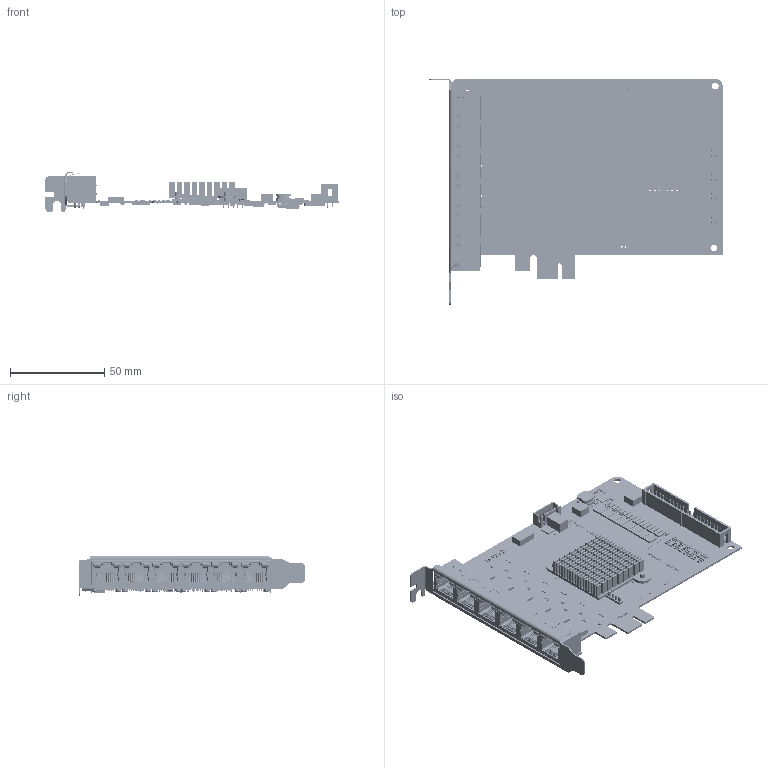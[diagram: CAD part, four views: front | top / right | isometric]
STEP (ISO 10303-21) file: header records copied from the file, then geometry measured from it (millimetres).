
FILE_DESCRIPTION((''),'2;1');
FILE_NAME('000000-XPCIE6032_ASM','2025-06-25T14:02:33',('admin'),(''),'CREO PARAMETRIC BY PTC INC, 2021063','CREO PARAMETRIC BY PTC INC, 2021063','');
FILE_SCHEMA(('CONFIG_CONTROL_DESIGN','SHAPE_APPEARANCE_LAYERS_GROUPS'));
Products named in the file (1704): OPEN_CASCADE_STEP_TRANSLATOR_7_; BOARD_ASM; RJHSE-5381_COLORED-33088; RJHSE-5381_COLORED-33149; RJHSE-5381_COLORED-33212; RJHSE-5381_COLORED-33274; RJHSE-5381_COLORED-33398; RJHSE-5381_COLORED-33460; RJHSE-5381_COLORED-33522; RJHSE-5381_COLORED-33584; RJHSE-5381_COLORED-33646; RJHSE-5381_COLORED-33708; RJHSE-5381_COLORED-33770; RJHSE-5381_COLORED-33889; RJHSE-5381_COLORED-34003; RJHSE-5381_COLORED-34065; RJHSE-5381_COLORED-34127; RJHSE-5381_COLORED-34189; RJHSE-5381_COLORED-34251; RJHSE-5381_COLORED-34370; RJHSE-5381_COLORED-34503; RJHSE-5381_COLORED-34614; RJHSE-5381_COLORED-34716; RJHSE-5381_COLORED-34778; RJHSE-5381_COLORED-34840; RJHSE-5381_COLORED-34964; RJHSE-5381_COLORED-35026; RJHSE-5381_COLORED-35088; RJHSE-5381_COLORED-35187; RJHSE-5381_COLORED-35258; RJHSE-5381_COLORED-35381; RJHSE-5381_COLORED-35475; RJHSE-5381_COLORED-35605; RJHSE-5381_COLORED-35677; RJHSE-5381_COLORED-35749; RJHSE-5381_COLORED-35811; RJHSE-5381_COLORED-35873; RJHSE-5381_COLORED-35935; RJHSE-5381_COLORED-36086; RJHSE-5381_COLORED-36147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
Assembly tree (8128 placements, depth 5):
  000000-XPCIE6032_ASM
    PCB_ASM
      BOARD_ASM
        OPEN_CASCADE_STEP_TRANSLATOR_7_
      J300_ASM
        RJHSE-5381_COLORED-33088  x6
        RJHSE-5381_COLORED-33149  x6
        RJHSE-5381_COLORED-33212  x6
        RJHSE-5381_COLORED-33274  x6
        RJHSE-5381_COLORED-33398  x6
        RJHSE-5381_COLORED-33460  x6
        RJHSE-5381_COLORED-33522  x6
        RJHSE-5381_COLORED-33584  x6
        RJHSE-5381_COLORED-33646  x6
        RJHSE-5381_COLORED-33708  x6
        RJHSE-5381_COLORED-33770  x6
        RJHSE-5381_COLORED-33889  x6
        RJHSE-5381_COLORED-34003  x6
        RJHSE-5381_COLORED-34065  x6
        RJHSE-5381_COLORED-34127  x6
        RJHSE-5381_COLORED-34189  x6
        RJHSE-5381_COLORED-34251  x6
        RJHSE-5381_COLORED-34370  x6
        RJHSE-5381_COLORED-34503  x6
        RJHSE-5381_COLORED-34614  x6
        RJHSE-5381_COLORED-34716  x6
        RJHSE-5381_COLORED-34778  x6
        RJHSE-5381_COLORED-34840  x6
        RJHSE-5381_COLORED-34964  x6
        RJHSE-5381_COLORED-35026  x6
        RJHSE-5381_COLORED-35088  x6
        RJHSE-5381_COLORED-35187  x6
        RJHSE-5381_COLORED-35258  x6
        RJHSE-5381_COLORED-35381  x6
        RJHSE-5381_COLORED-35475  x6
        RJHSE-5381_COLORED-35605  x6
        RJHSE-5381_COLORED-35677  x6
        RJHSE-5381_COLORED-35749  x6
        RJHSE-5381_COLORED-35811  x6
        RJHSE-5381_COLORED-35873  x6
        RJHSE-5381_COLORED-35935  x6
        RJHSE-5381_COLORED-36086  x6
        RJHSE-5381_COLORED-36147  x6
        RJHSE-5381_COLORED-36209  x6
        RJHSE-5381_COLORED-36272  x6
        RJHSE-5381_COLORED-36382  x6
        RJHSE-5381_COLORED-36444  x6
        RJHSE-5381_COLORED-36560  x6
        RJHSE-5381_COLORED-36622  x6
        RJHSE-5381_COLORED-36684  x6
        RJHSE-5381_COLORED-36761  x6
        RJHSE-5381_COLORED-36823  x6
        RJHSE-5381_COLORED-36884  x6
        RJHSE-5381_COLORED-36956  x6
        RJHSE-5381_COLORED-37020  x6
        RJHSE-5381_COLORED-37082  x6
        RJHSE-5381_COLORED-37144  x6
        RJHSE-5381_COLORED-37206  x6
        RJHSE-5381_COLORED-37273  x6
        RJHSE-5381_COLORED-37354  x6
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Bounding box: 155.82 x 120.2 x 21.15 mm (x, y, z)
Volume: 30073.4 mm3; surface area: 88186.1 mm2
Topology: 1492 solids, 7704 shells, 20269 faces, 67183 edges, 55925 vertices
Faces by surface type: plane 16407, cylinder 2420, extrusion 673, sphere 398, bspline 195, torus 110, cone 66
Entity records: 317324 total; most frequent: CARTESIAN_POINT 62184, DIRECTION 56602, AXIS2_PLACEMENT_3D 23049, ORIENTED_EDGE 20262, EDGE_CURVE 13122, VERTEX_POINT 10598, VECTOR 10504, LINE 10326
